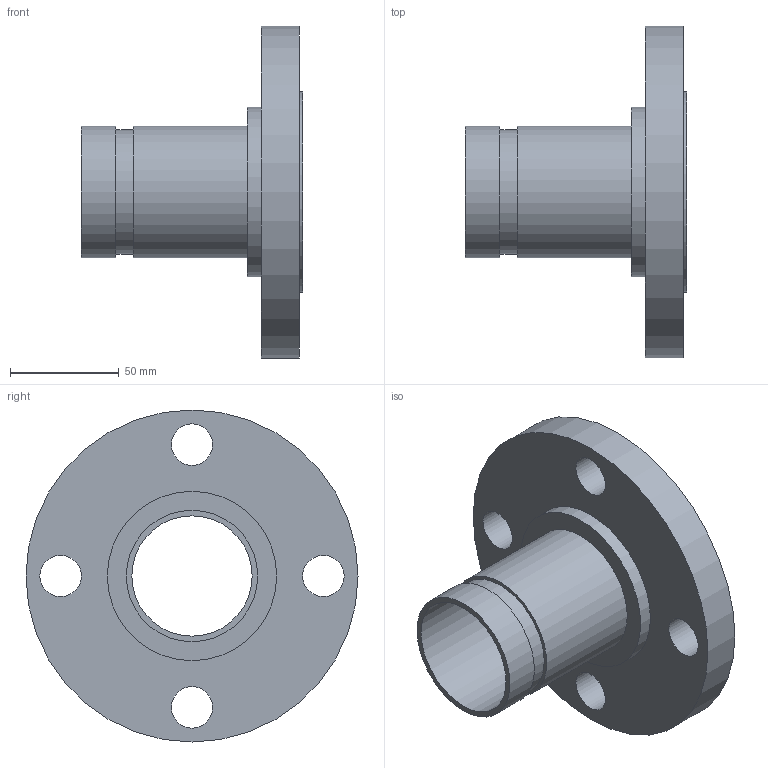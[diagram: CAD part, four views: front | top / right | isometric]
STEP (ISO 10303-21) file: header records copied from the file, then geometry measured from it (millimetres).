
FILE_DESCRIPTION(/* description */ ('VIC No 445R FLANGE ADAPTER NIPPE (ANSI)','CAx-IF Rec.Pracs.---Representation and Presentation of Product Manufacturing Information (PMI)---4.0---2014-10-13'),/* implementation_level */ '2;1');
FILE_NAME(/* name */ 'C:\Users\kkamble\AppData\Roaming\Autodesk\ApplicationPlugins\Back Up\Victaulic_SS-OGS_Flanged Adapter Nipple_CL 150 RF_Style 445R (OGSxFLG)\Victaulic_SS-OGS_Flanged Adapter Nipple_CL 150 RF_Style 445R (OGSxFLG)_2 (50).stp',/* time_stamp */ '2020-08-27T09:30:56+05:00',/* author */ ('jbrannon'),/* organization */ ('Victaulic'),/* preprocessor_version */ 'ST-DEVELOPER v17.2',/* originating_system */ 'Autodesk Inventor 2019',/* authorisation */ '');
FILE_SCHEMA (('AP242_MANAGED_MODEL_BASED_3D_ENGINEERING_MIM_LF { 1 0 10303 442 1 1 4 }'));
Length unit declared in the file: inch
Products named in the file (1): 445R-02.0
Bounding box: 101.6 x 152.4 x 152.4 mm (x, y, z)
Volume: 312128.9 mm3; surface area: 76573.5 mm2
Topology: 1 solids, 1 shells, 18 faces, 47 edges, 36 vertices
Faces by surface type: cylinder 11, plane 7
Full cylindrical faces by diameter (mm): 19.05 x4, 55.245 x1, 57.15 x1, 60.325 x2, 77.724 x1, 91.948 x1, 152.4 x1
Entity records: 769 total; most frequent: DIRECTION 147, CARTESIAN_POINT 119, ORIENTED_EDGE 94, AXIS2_PLACEMENT_3D 68, EDGE_CURVE 47, CIRCLE 36, VERTEX_POINT 36, EDGE_LOOP 33
